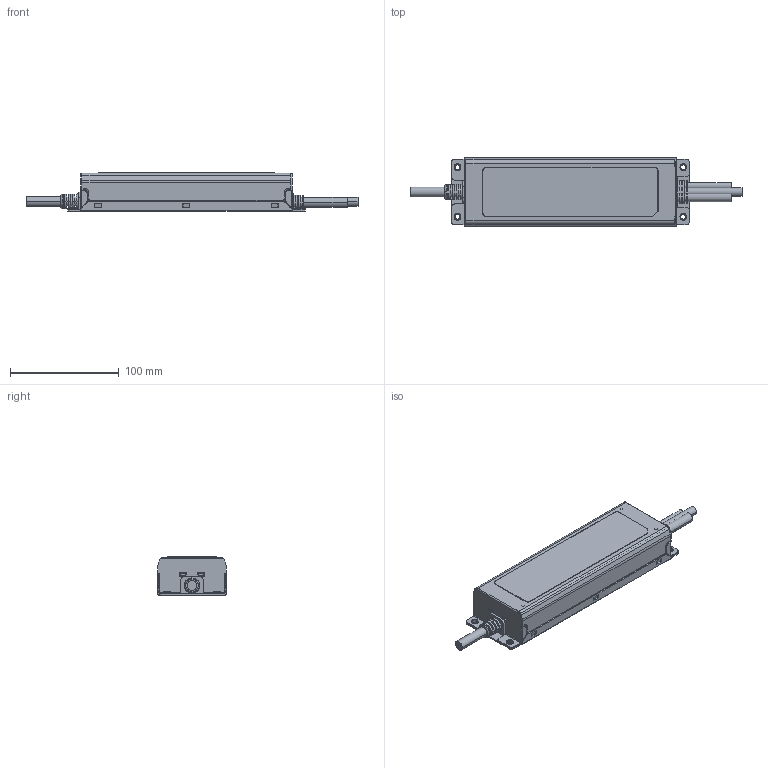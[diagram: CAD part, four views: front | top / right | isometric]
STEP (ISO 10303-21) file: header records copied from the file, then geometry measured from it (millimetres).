
FILE_DESCRIPTION((''),'2;1');
FILE_NAME('ELGT-150_ASM','2020-06-24T11:52:03',('shalinice'),(''),'CREO PARAMETRIC BY PTC INC, 2016390','CREO PARAMETRIC BY PTC INC, 2016390','');
FILE_SCHEMA(('AUTOMOTIVE_DESIGN { 1 0 10303 214 1 1 1 1 }'));
Length unit declared in the file: millimetre
Products named in the file (10): 237C-D; 237A-T; 237E-D; CASE_ASM; IP_1_1; OP_1_2; OP2; WIRE_ASM; ELGT-150-C_ASM; ELGT-150_ASM
Assembly tree (9 placements, depth 4):
  ELGT-150_ASM
    ELGT-150-C_ASM
      CASE_ASM
        237C-D
        237A-T
        237E-D
      WIRE_ASM
        IP_1_1
        OP_1_2
        OP2
Bounding box: 305.8 x 63.13 x 35.5 mm (x, y, z)
Volume: 95035.1 mm3; surface area: 140767.6 mm2
Topology: 6 solids, 6 shells, 1016 faces, 2679 edges, 1733 vertices
Faces by surface type: plane 607, cylinder 311, torus 72, bspline 12, cone 12, sphere 2
Entity records: 40693 total; most frequent: CARTESIAN_POINT 6454, DIRECTION 5387, ORIENTED_EDGE 5354, PRESENTATION_STYLE_ASSIGNMENT 2683, STYLED_ITEM 2683, CURVE_STYLE 2677, EDGE_CURVE 2677, AXIS2_PLACEMENT_3D 1799
